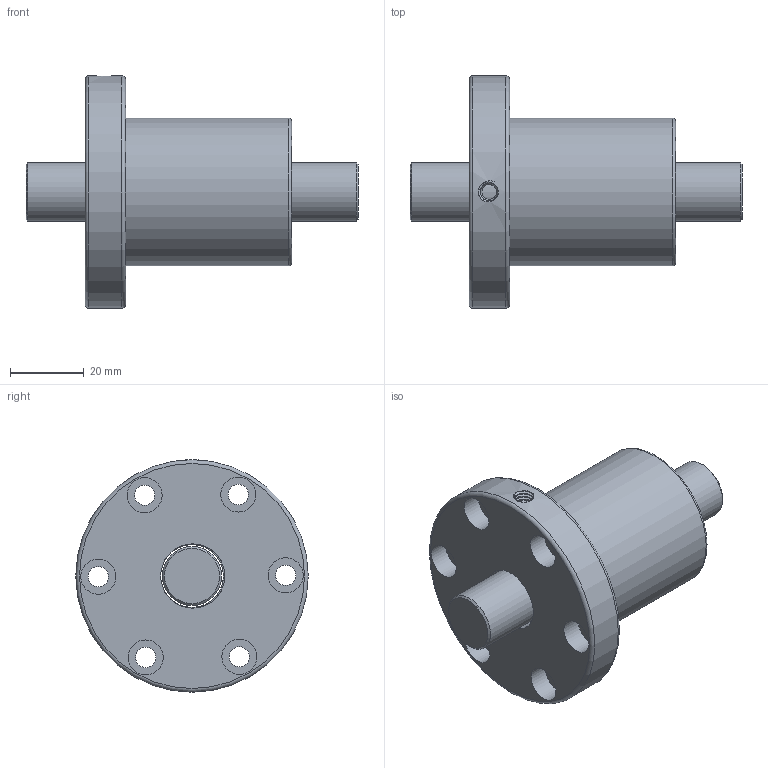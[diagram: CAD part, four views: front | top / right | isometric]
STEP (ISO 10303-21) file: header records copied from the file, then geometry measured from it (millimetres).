
FILE_DESCRIPTION (( 'STEP AP203' ), '1' );
FILE_NAME ('SFV01610-2.7.STEP', '2023-05-26T02:39:05', ( '' ), ( '' ), 'SwSTEP 2.0', 'SolidWorks 2022', '' );
FILE_SCHEMA (( 'CONFIG_CONTROL_DESIGN' ));
Length unit declared in the file: millimetre
Products named in the file (1): SFV01610-2.7
Bounding box: 90 x 63 x 63 mm (x, y, z)
Volume: 92522.8 mm3; surface area: 22930.9 mm2
Topology: 2 solids, 2 shells, 45 faces, 98 edges, 63 vertices
Faces by surface type: cylinder 22, plane 15, cone 3, torus 3, bspline 2
Full cylindrical faces by diameter (mm): 4 x1, 4.917 x1, 5.5 x6, 9.5 x6, 16 x1, 17 x1, 17.412 x2, 40 x1, 63 x1
Entity records: 2929 total; most frequent: CARTESIAN_POINT 1995, DIRECTION 186, ORIENTED_EDGE 124, EDGE_LOOP 93, AXIS2_PLACEMENT_3D 92, FACE_OUTER_BOUND 68, EDGE_CURVE 62, VERTEX_POINT 53
